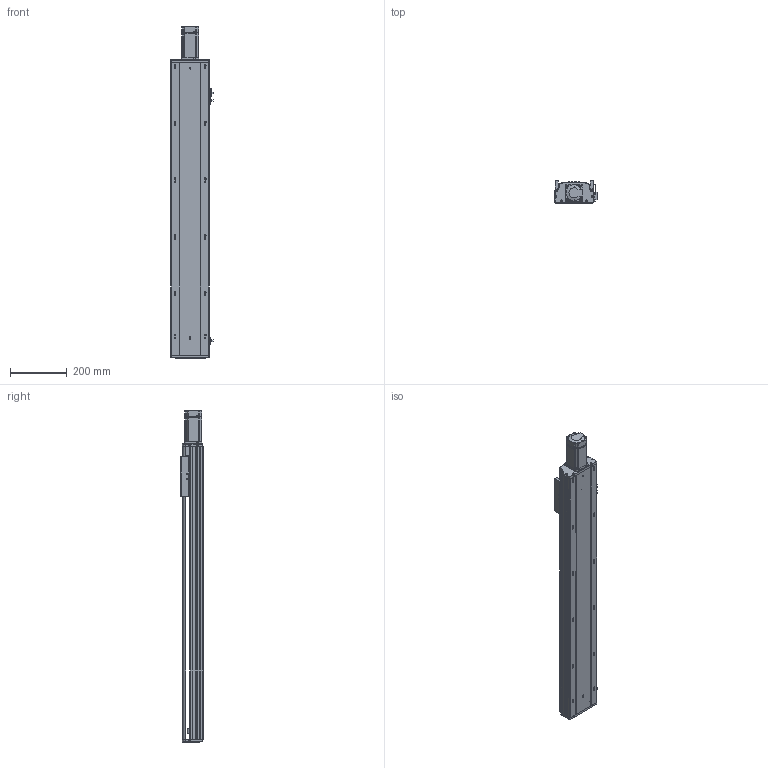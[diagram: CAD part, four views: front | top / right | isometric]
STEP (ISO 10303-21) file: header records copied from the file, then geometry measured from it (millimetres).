
FILE_DESCRIPTION (( 'STEP AP203' ), '1' );
FILE_NAME ('RY140Q-L2010-700-MK.SLDASM_0800.step', '2021-05-27T03:22:25', ( '盈信电脑' ), ( '东莞市道滘镇水果街19号' ), 'SwSTEP 2.0', 'SolidWorks 2016', '' );
FILE_SCHEMA (( 'CONFIG_CONTROL_DESIGN' ));
Length unit declared in the file: millimetre
Products named in the file (14): 覜茼ん672; RY140Q-700-MK倰第菁釱_0800; 15; RY140Q萇儂傷盓傅釱FK12(80.5酗M5); 鞠褒坶踡蹟譫BK12 ; RY140Q臏賑輸(20佪裝-J); RY140ヶ裔啣; RY120外置感应片(140共用）; 侂狟400W侜督萇儂; 滅袉蝶18-10; RY140綴裔啣; 滅袉蝶18-15; RY140Q-700-MK倰第奻裔啣_0800; RY140Q-L2010-700-MK.SLDASM_0800
Assembly tree (16 placements, depth 3):
  RY140Q-L2010-700-MK.SLDASM_0800
    RY140Q-700-MK倰第菁釱_0800
    RY140Q臏賑輸(20佪裝-J)
    RY140Q-700-MK倰第奻裔啣_0800
    RY140ヶ裔啣
    侂狟400W侜督萇儂
      15
    鞠褒坶踡蹟譫BK12 
    RY140綴裔啣
    覜茼ん672  x3
    RY120外置感应片(140共用）
    RY140Q萇儂傷盓傅釱FK12(80.5酗M5)
    滅袉蝶18-10
    滅袉蝶18-15  x2
Bounding box: 148.7 x 78 x 1169.5 mm (x, y, z)
Volume: 3365078.7 mm3; surface area: 1210835.8 mm2
Topology: 15 solids, 15 shells, 2099 faces, 5790 edges, 3705 vertices
Faces by surface type: plane 1086, cylinder 728, cone 200, bspline 85
Entity records: 69321 total; most frequent: CARTESIAN_POINT 16622, ORIENTED_EDGE 10872, DIRECTION 10342, EDGE_CURVE 5436, VERTEX_POINT 3565, VECTOR 3498, LINE 3498, AXIS2_PLACEMENT_3D 3422
